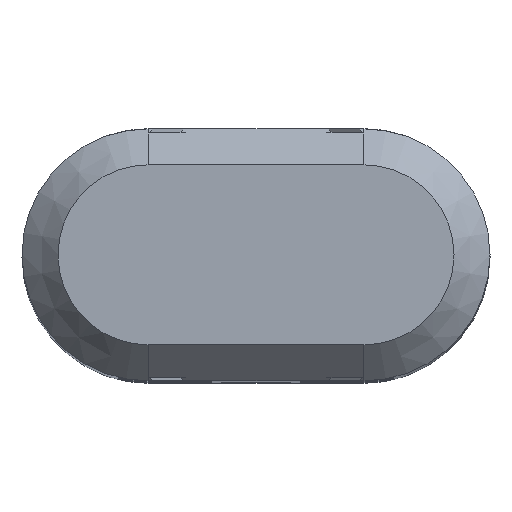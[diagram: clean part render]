
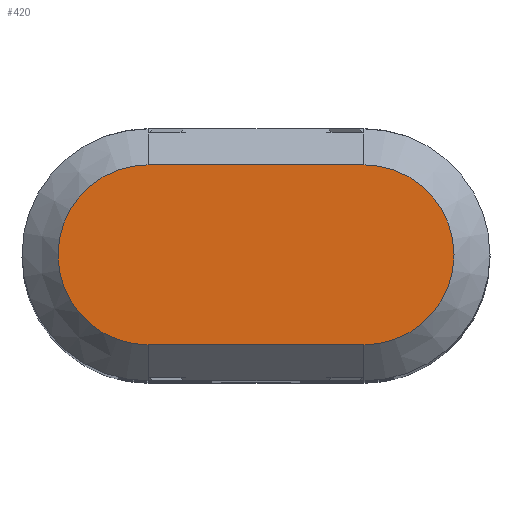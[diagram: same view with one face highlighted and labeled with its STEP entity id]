
A CAD part, top view. The second image highlights one B-rep face of the part: STEP entity #420.
In plain terms, the highlighted planar face has unit normal (0, 0, 1).
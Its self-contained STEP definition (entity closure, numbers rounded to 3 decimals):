
#10=CARTESIAN_POINT('',(13.869,4.044,
-15.5));
#20=DIRECTION('',(0.,0.,1.));
#30=DIRECTION('',(-1.,0.,0.));
#40=AXIS2_PLACEMENT_3D('',#10,#20,#30);
#50=PLANE('',#40);
#60=CARTESIAN_POINT('',(13.869,-0.956,
-15.5));
#70=DIRECTION('',(1.,0.,0.));
#80=VECTOR('',#70,1.);
#90=LINE('',#60,#80);
#100=CARTESIAN_POINT('',(7.869,-0.956,
-15.5));
#110=VERTEX_POINT('',#100);
#120=CARTESIAN_POINT('',(19.869,-0.956,
-15.5));
#130=VERTEX_POINT('',#120);
#140=EDGE_CURVE('',#110,#130,#90,.T.);
#150=ORIENTED_EDGE('',*,*,#140,.T.);
#160=CARTESIAN_POINT('',(7.869,4.044,
-15.5));
#170=DIRECTION('',(0.,0.,1.));
#180=DIRECTION('',(-1.,0.,0.));
#190=AXIS2_PLACEMENT_3D('',#160,#170,#180);
#200=CIRCLE('',#190,5.);
#210=CARTESIAN_POINT('',(7.869,9.044,
-15.5));
#220=VERTEX_POINT('',#210);
#230=EDGE_CURVE('',#220,#110,#200,.T.);
#240=ORIENTED_EDGE('',*,*,#230,.T.);
#250=CARTESIAN_POINT('',(13.869,9.044,
-15.5));
#260=DIRECTION('',(-1.,0.,0.));
#270=VECTOR('',#260,1.);
#280=LINE('',#250,#270);
#290=CARTESIAN_POINT('',(19.869,9.044,
-15.5));
#300=VERTEX_POINT('',#290);
#310=EDGE_CURVE('',#300,#220,#280,.T.);
#320=ORIENTED_EDGE('',*,*,#310,.T.);
#330=CARTESIAN_POINT('',(19.869,4.044,
-15.5));
#340=DIRECTION('',(0.,0.,1.));
#350=DIRECTION('',(-1.,0.,0.));
#360=AXIS2_PLACEMENT_3D('',#330,#340,#350);
#370=CIRCLE('',#360,5.);
#380=EDGE_CURVE('',#130,#300,#370,.T.);
#390=ORIENTED_EDGE('',*,*,#380,.T.);
#400=EDGE_LOOP('',(#390,#320,#240,#150));
#410=FACE_OUTER_BOUND('',#400,.T.);
#420=ADVANCED_FACE('',(#410),#50,.T.);
